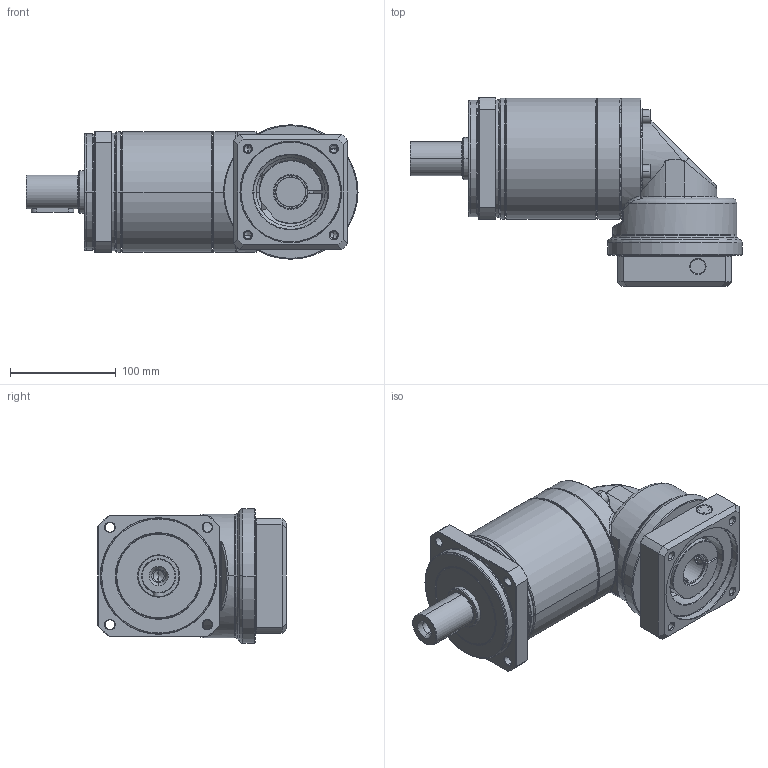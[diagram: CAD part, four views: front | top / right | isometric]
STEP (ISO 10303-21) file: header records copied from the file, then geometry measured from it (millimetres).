
FILE_DESCRIPTION((''),'2;1');
FILE_NAME('PA2R-115_2ST_28-P0411600101_ASM','2016-05-17T',('d01943'),(''),'PRO/ENGINEER BY PARAMETRIC TECHNOLOGY CORPORATION, 2008410','PRO/ENGINEER BY PARAMETRIC TECHNOLOGY CORPORATION, 2008410','');
FILE_SCHEMA(('CONFIG_CONTROL_DESIGN'));
Length unit declared in the file: millimetre
Products named in the file (12): P1327410001; P0251400001; P0350400601; P1349400001; P1017400001; P0713402001; P0503600008; P1350400201; P0411600101; P1702500001; 2111B108035; PA2R-115_2ST_28-P0411600101_ASM
Assembly tree (14 placements, depth 2):
  PA2R-115_2ST_28-P0411600101_ASM
    P1327410001
    P0251400001
    P0350400601
    P1349400001
    P1017400001
    P0713402001
    P0503600008
    P1350400201
    P0411600101
    P1702500001
    2111B108035  x4
Bounding box: 313.5 x 178 x 127 mm (x, y, z)
Volume: 1781733.1 mm3; surface area: 357789 mm2
Topology: 14 solids, 14 shells, 738 faces, 1626 edges, 938 vertices
Faces by surface type: cylinder 218, cone 214, plane 168, torus 106, bspline 32
Entity records: 23367 total; most frequent: CARTESIAN_POINT 9063, DIRECTION 3162, ORIENTED_EDGE 2776, EDGE_CURVE 1388, AXIS2_PLACEMENT_3D 1332, VERTEX_POINT 818, EDGE_LOOP 720, CIRCLE 699
